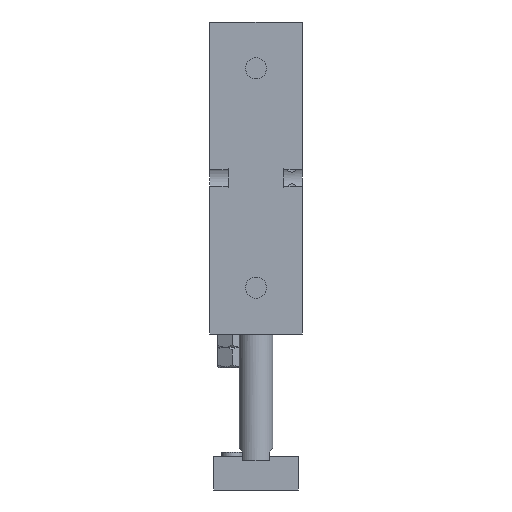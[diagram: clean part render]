
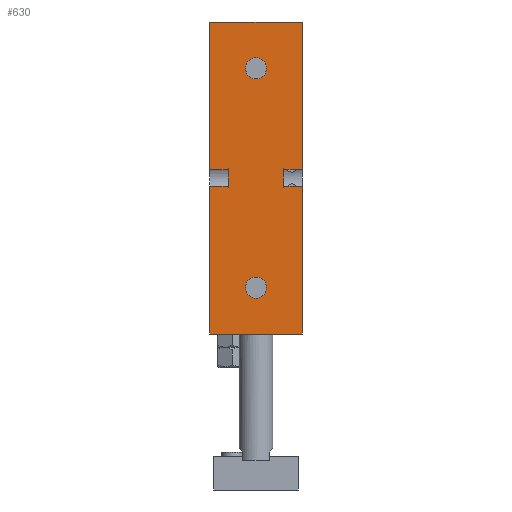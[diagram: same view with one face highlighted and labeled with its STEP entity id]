
A CAD part, front view. The second image highlights one B-rep face of the part: STEP entity #630.
In plain terms, the highlighted planar face has unit normal (0, -1, 0).
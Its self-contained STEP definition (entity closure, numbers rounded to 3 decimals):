
#121=CARTESIAN_POINT('',(2.5,-27.0,100.0));
#122=VERTEX_POINT('',#121);
#123=CARTESIAN_POINT('',(0.0,-27.0,100.0));
#124=DIRECTION('',(0.0,1.0,0.0));
#125=DIRECTION('',(-1.0,0.0,0.0));
#126=AXIS2_PLACEMENT_3D('',#123,#124,#125);
#127=CIRCLE('',#126,2.5);
#128=EDGE_CURVE('',#122,#122,#127,.T.);
#158=CARTESIAN_POINT('',(2.5,-27.0,48.));
#159=VERTEX_POINT('',#158);
#160=CARTESIAN_POINT('',(0.0,-27.0,48.));
#161=DIRECTION('',(0.0,1.0,0.0));
#162=DIRECTION('',(-1.0,0.0,0.0));
#163=AXIS2_PLACEMENT_3D('',#160,#161,#162);
#164=CIRCLE('',#163,2.5);
#165=EDGE_CURVE('',#159,#159,#164,.T.);
#411=CARTESIAN_POINT('',(-6.6,-27.0,75.936));
#412=VERTEX_POINT('',#411);
#413=CARTESIAN_POINT('',(-6.6,-27.0,72.064));
#414=VERTEX_POINT('',#413);
#415=CARTESIAN_POINT('',(-6.6,-27.0,75.936));
#416=DIRECTION('',(0.0,0.0,-1.0));
#417=VECTOR('',#416,3.873);
#418=LINE('',#415,#417);
#419=EDGE_CURVE('',#412,#414,#418,.T.);
#468=CARTESIAN_POINT('',(-11.,-27.0,75.936));
#469=VERTEX_POINT('',#468);
#470=CARTESIAN_POINT('',(-11.,-27.0,75.936));
#471=DIRECTION('',(1.0,0.0,0.0));
#472=VECTOR('',#471,4.4);
#473=LINE('',#470,#472);
#474=EDGE_CURVE('',#469,#412,#473,.T.);
#476=CARTESIAN_POINT('',(-11.,-27.0,72.064));
#477=VERTEX_POINT('',#476);
#485=CARTESIAN_POINT('',(-6.6,-27.0,72.064));
#486=DIRECTION('',(-1.0,0.0,0.0));
#487=VECTOR('',#486,4.4);
#488=LINE('',#485,#487);
#489=EDGE_CURVE('',#414,#477,#488,.T.);
#544=CARTESIAN_POINT('',(11.,-27.0,37.0));
#545=DIRECTION('',(0.0,-1.0,0.0));
#546=DIRECTION('',(0.0,0.0,-1.0));
#547=AXIS2_PLACEMENT_3D('',#544,#545,#546);
#548=PLANE('',#547);
#549=ORIENTED_EDGE('',*,*,#474,.T.);
#550=ORIENTED_EDGE('',*,*,#419,.T.);
#551=ORIENTED_EDGE('',*,*,#489,.T.);
#552=CARTESIAN_POINT('',(-11.,-27.0,37.0));
#553=VERTEX_POINT('',#552);
#554=CARTESIAN_POINT('',(-11.,-27.0,37.0));
#555=DIRECTION('',(0.0,0.0,1.0));
#556=VECTOR('',#555,35.064);
#557=LINE('',#554,#556);
#558=EDGE_CURVE('',#553,#477,#557,.T.);
#559=ORIENTED_EDGE('',*,*,#558,.F.);
#560=CARTESIAN_POINT('',(11.,-27.0,37.0));
#561=VERTEX_POINT('',#560);
#562=CARTESIAN_POINT('',(11.,-27.0,37.0));
#563=DIRECTION('',(-1.0,0.0,0.0));
#564=VECTOR('',#563,22.);
#565=LINE('',#562,#564);
#566=EDGE_CURVE('',#561,#553,#565,.T.);
#567=ORIENTED_EDGE('',*,*,#566,.F.);
#568=CARTESIAN_POINT('',(11.,-27.0,72.064));
#569=VERTEX_POINT('',#568);
#570=CARTESIAN_POINT('',(11.,-27.0,37.0));
#571=DIRECTION('',(0.0,0.0,1.0));
#572=VECTOR('',#571,35.064);
#573=LINE('',#570,#572);
#574=EDGE_CURVE('',#561,#569,#573,.T.);
#575=ORIENTED_EDGE('',*,*,#574,.T.);
#576=CARTESIAN_POINT('',(6.6,-27.0,72.064));
#577=VERTEX_POINT('',#576);
#578=CARTESIAN_POINT('',(11.,-27.0,72.064));
#579=DIRECTION('',(-1.0,0.0,0.0));
#580=VECTOR('',#579,4.4);
#581=LINE('',#578,#580);
#582=EDGE_CURVE('',#569,#577,#581,.T.);
#583=ORIENTED_EDGE('',*,*,#582,.T.);
#584=CARTESIAN_POINT('',(6.6,-27.0,75.936));
#585=VERTEX_POINT('',#584);
#586=CARTESIAN_POINT('',(6.6,-27.0,72.064));
#587=DIRECTION('',(0.0,0.0,1.0));
#588=VECTOR('',#587,3.873);
#589=LINE('',#586,#588);
#590=EDGE_CURVE('',#577,#585,#589,.T.);
#591=ORIENTED_EDGE('',*,*,#590,.T.);
#592=CARTESIAN_POINT('',(11.,-27.0,75.936));
#593=VERTEX_POINT('',#592);
#594=CARTESIAN_POINT('',(6.6,-27.0,75.936));
#595=DIRECTION('',(1.0,0.0,0.0));
#596=VECTOR('',#595,4.4);
#597=LINE('',#594,#596);
#598=EDGE_CURVE('',#585,#593,#597,.T.);
#599=ORIENTED_EDGE('',*,*,#598,.T.);
#600=CARTESIAN_POINT('',(11.,-27.0,111.));
#601=VERTEX_POINT('',#600);
#602=CARTESIAN_POINT('',(11.,-27.0,75.936));
#603=DIRECTION('',(0.0,0.0,1.0));
#604=VECTOR('',#603,35.064);
#605=LINE('',#602,#604);
#606=EDGE_CURVE('',#593,#601,#605,.T.);
#607=ORIENTED_EDGE('',*,*,#606,.T.);
#608=CARTESIAN_POINT('',(-11.,-27.0,111.));
#609=VERTEX_POINT('',#608);
#610=CARTESIAN_POINT('',(11.,-27.0,111.));
#611=DIRECTION('',(-1.0,0.0,0.0));
#612=VECTOR('',#611,22.);
#613=LINE('',#610,#612);
#614=EDGE_CURVE('',#601,#609,#613,.T.);
#615=ORIENTED_EDGE('',*,*,#614,.T.);
#616=CARTESIAN_POINT('',(-11.,-27.0,75.936));
#617=DIRECTION('',(0.0,0.0,1.0));
#618=VECTOR('',#617,35.064);
#619=LINE('',#616,#618);
#620=EDGE_CURVE('',#469,#609,#619,.T.);
#621=ORIENTED_EDGE('',*,*,#620,.F.);
#622=EDGE_LOOP('',(#549,#550,#551,#559,#567,#575,#583,#591,#599,#607,#615,#621));
#623=FACE_OUTER_BOUND('',#622,.T.);
#624=ORIENTED_EDGE('',*,*,#128,.T.);
#625=EDGE_LOOP('',(#624));
#626=FACE_BOUND('',#625,.T.);
#627=ORIENTED_EDGE('',*,*,#165,.T.);
#628=EDGE_LOOP('',(#627));
#629=FACE_BOUND('',#628,.T.);
#630=ADVANCED_FACE('',(#623,#626,#629),#548,.T.);
